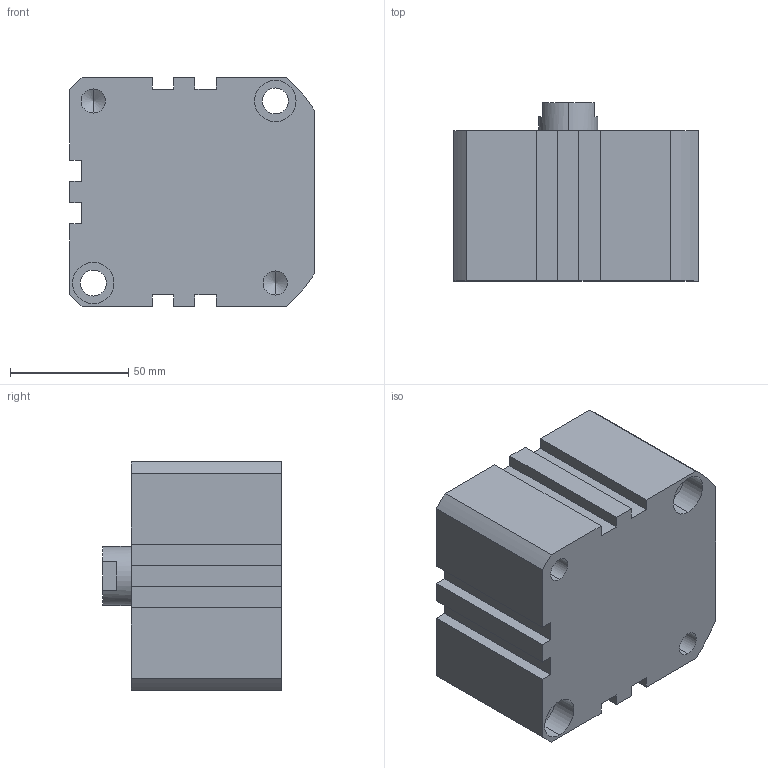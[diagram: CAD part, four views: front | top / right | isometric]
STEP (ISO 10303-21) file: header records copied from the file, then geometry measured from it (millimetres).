
FILE_DESCRIPTION (( 'STEP AP203' ), '1' );
FILE_NAME ('XC#2-80D-10.STEP', '2016-05-23T08:17:22', ( '' ), ( '' ), 'SwSTEP 2.0', 'SolidWorks 2014', '' );
FILE_SCHEMA (( 'CONFIG_CONTROL_DESIGN' ));
Length unit declared in the file: millimetre
Products named in the file (1): XC#2-80D-10
Bounding box: 103.5 x 75.5 x 97 mm (x, y, z)
Volume: 569868.3 mm3; surface area: 60375.5 mm2
Topology: 1 solids, 1 shells, 111 faces, 275 edges, 174 vertices
Faces by surface type: cylinder 47, plane 46, cone 18
Entity records: 3359 total; most frequent: DIRECTION 604, CARTESIAN_POINT 555, ORIENTED_EDGE 538, EDGE_CURVE 269, AXIS2_PLACEMENT_3D 223, VERTEX_POINT 174, LINE 158, VECTOR 158
